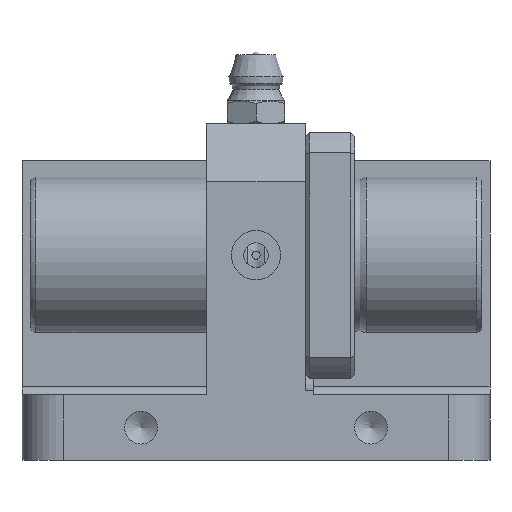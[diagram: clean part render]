
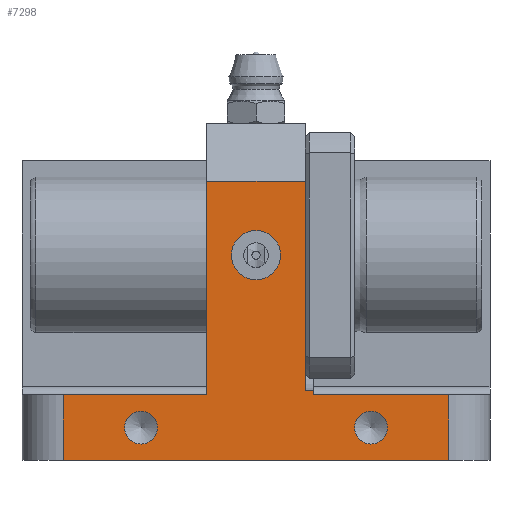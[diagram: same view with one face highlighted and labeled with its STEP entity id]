
A CAD part, front view. The second image highlights one B-rep face of the part: STEP entity #7298.
In plain terms, the highlighted planar face has unit normal (0, -1, 0).
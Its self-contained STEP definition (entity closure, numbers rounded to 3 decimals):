
#7152=CARTESIAN_POINT('',(52.,-42.5,8.));
#7153=VERTEX_POINT('',#7152);
#7161=CARTESIAN_POINT('',(52.,-42.5,0.0));
#7162=VERTEX_POINT('',#7161);
#7163=CARTESIAN_POINT('',(52.,-42.5,8.));
#7164=DIRECTION('',(0.0,0.0,-1.0));
#7165=VECTOR('',#7164,8.);
#7166=LINE('',#7163,#7165);
#7167=EDGE_CURVE('',#7153,#7162,#7166,.T.);
#7187=CARTESIAN_POINT('',(57.,-42.5,0.0));
#7188=DIRECTION('',(0.0,-1.0,0.0));
#7189=DIRECTION('',(0.0,0.0,-1.0));
#7190=AXIS2_PLACEMENT_3D('',#7187,#7188,#7189);
#7191=PLANE('',#7190);
#7192=ORIENTED_EDGE('',*,*,#7167,.F.);
#7193=CARTESIAN_POINT('',(35.5,-42.5,8.));
#7194=VERTEX_POINT('',#7193);
#7195=CARTESIAN_POINT('',(52.,-42.5,8.));
#7196=DIRECTION('',(-1.0,0.0,0.0));
#7197=VECTOR('',#7196,16.5);
#7198=LINE('',#7195,#7197);
#7199=EDGE_CURVE('',#7153,#7194,#7198,.T.);
#7200=ORIENTED_EDGE('',*,*,#7199,.T.);
#7201=CARTESIAN_POINT('',(35.5,-42.5,8.5));
#7202=VERTEX_POINT('',#7201);
#7203=CARTESIAN_POINT('',(35.5,-42.5,8.));
#7204=DIRECTION('',(0.0,0.0,1.0));
#7205=VECTOR('',#7204,0.5);
#7206=LINE('',#7203,#7205);
#7207=EDGE_CURVE('',#7194,#7202,#7206,.T.);
#7208=ORIENTED_EDGE('',*,*,#7207,.T.);
#7209=CARTESIAN_POINT('',(34.5,-42.5,8.5));
#7210=VERTEX_POINT('',#7209);
#7211=CARTESIAN_POINT('',(34.5,-42.5,8.5));
#7212=DIRECTION('',(1.0,0.0,0.0));
#7213=VECTOR('',#7212,1.0);
#7214=LINE('',#7211,#7213);
#7215=EDGE_CURVE('',#7210,#7202,#7214,.T.);
#7216=ORIENTED_EDGE('',*,*,#7215,.F.);
#7217=CARTESIAN_POINT('',(34.5,-42.5,34.0));
#7218=VERTEX_POINT('',#7217);
#7219=CARTESIAN_POINT('',(34.5,-42.5,8.5));
#7220=DIRECTION('',(0.0,0.0,1.0));
#7221=VECTOR('',#7220,25.5);
#7222=LINE('',#7219,#7221);
#7223=EDGE_CURVE('',#7210,#7218,#7222,.T.);
#7224=ORIENTED_EDGE('',*,*,#7223,.T.);
#7225=CARTESIAN_POINT('',(22.5,-42.5,34.0));
#7226=VERTEX_POINT('',#7225);
#7227=CARTESIAN_POINT('',(22.5,-42.5,34.0));
#7228=DIRECTION('',(1.0,0.0,0.0));
#7229=VECTOR('',#7228,12.);
#7230=LINE('',#7227,#7229);
#7231=EDGE_CURVE('',#7226,#7218,#7230,.T.);
#7232=ORIENTED_EDGE('',*,*,#7231,.F.);
#7233=CARTESIAN_POINT('',(22.5,-42.5,8.));
#7234=VERTEX_POINT('',#7233);
#7235=CARTESIAN_POINT('',(22.5,-42.5,34.0));
#7236=DIRECTION('',(0.0,0.0,-1.0));
#7237=VECTOR('',#7236,26.);
#7238=LINE('',#7235,#7237);
#7239=EDGE_CURVE('',#7226,#7234,#7238,.T.);
#7240=ORIENTED_EDGE('',*,*,#7239,.T.);
#7241=CARTESIAN_POINT('',(5.0,-42.5,8.));
#7242=VERTEX_POINT('',#7241);
#7243=CARTESIAN_POINT('',(22.5,-42.5,8.));
#7244=DIRECTION('',(-1.0,0.0,0.0));
#7245=VECTOR('',#7244,17.5);
#7246=LINE('',#7243,#7245);
#7247=EDGE_CURVE('',#7234,#7242,#7246,.T.);
#7248=ORIENTED_EDGE('',*,*,#7247,.T.);
#7249=CARTESIAN_POINT('',(5.0,-42.5,0.0));
#7250=VERTEX_POINT('',#7249);
#7251=CARTESIAN_POINT('',(5.0,-42.5,0.0));
#7252=DIRECTION('',(0.0,0.0,1.0));
#7253=VECTOR('',#7252,8.);
#7254=LINE('',#7251,#7253);
#7255=EDGE_CURVE('',#7250,#7242,#7254,.T.);
#7256=ORIENTED_EDGE('',*,*,#7255,.F.);
#7257=CARTESIAN_POINT('',(5.0,-42.5,0.0));
#7258=DIRECTION('',(1.0,0.0,0.0));
#7259=VECTOR('',#7258,47.);
#7260=LINE('',#7257,#7259);
#7261=EDGE_CURVE('',#7250,#7162,#7260,.T.);
#7262=ORIENTED_EDGE('',*,*,#7261,.T.);
#7263=EDGE_LOOP('',(#7192,#7200,#7208,#7216,#7224,#7232,#7240,#7248,#7256,#7262));
#7264=FACE_OUTER_BOUND('',#7263,.T.);
#7265=CARTESIAN_POINT('',(44.5,-42.5,4.));
#7266=VERTEX_POINT('',#7265);
#7267=CARTESIAN_POINT('',(42.5,-42.5,4.));
#7268=DIRECTION('',(0.0,1.0,0.0));
#7269=DIRECTION('',(1.0,0.0,0.0));
#7270=AXIS2_PLACEMENT_3D('',#7267,#7268,#7269);
#7271=CIRCLE('',#7270,2.0);
#7272=EDGE_CURVE('',#7266,#7266,#7271,.T.);
#7273=ORIENTED_EDGE('',*,*,#7272,.T.);
#7274=EDGE_LOOP('',(#7273));
#7275=FACE_BOUND('',#7274,.T.);
#7276=CARTESIAN_POINT('',(16.5,-42.5,4.));
#7277=VERTEX_POINT('',#7276);
#7278=CARTESIAN_POINT('',(14.5,-42.5,4.));
#7279=DIRECTION('',(0.0,1.0,0.0));
#7280=DIRECTION('',(1.0,0.0,0.0));
#7281=AXIS2_PLACEMENT_3D('',#7278,#7279,#7280);
#7282=CIRCLE('',#7281,2.0);
#7283=EDGE_CURVE('',#7277,#7277,#7282,.T.);
#7284=ORIENTED_EDGE('',*,*,#7283,.T.);
#7285=EDGE_LOOP('',(#7284));
#7286=FACE_BOUND('',#7285,.T.);
#7287=CARTESIAN_POINT('',(31.5,-42.5,25.));
#7288=VERTEX_POINT('',#7287);
#7289=CARTESIAN_POINT('',(28.5,-42.5,25.));
#7290=DIRECTION('',(0.0,1.0,0.0));
#7291=DIRECTION('',(1.0,0.0,0.0));
#7292=AXIS2_PLACEMENT_3D('',#7289,#7290,#7291);
#7293=CIRCLE('',#7292,3.);
#7294=EDGE_CURVE('',#7288,#7288,#7293,.T.);
#7295=ORIENTED_EDGE('',*,*,#7294,.T.);
#7296=EDGE_LOOP('',(#7295));
#7297=FACE_BOUND('',#7296,.T.);
#7298=ADVANCED_FACE('',(#7264,#7275,#7286,#7297),#7191,.T.);
